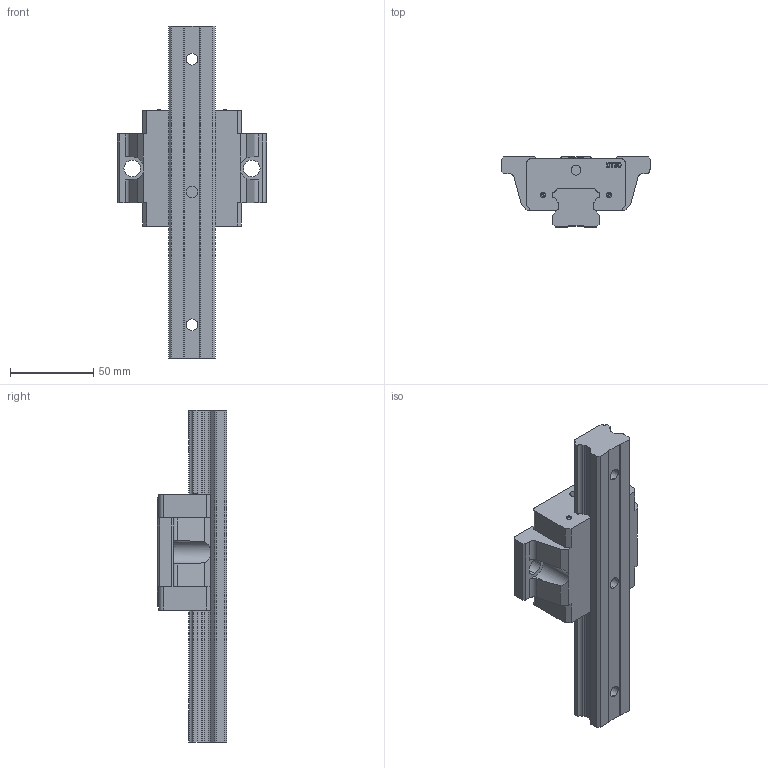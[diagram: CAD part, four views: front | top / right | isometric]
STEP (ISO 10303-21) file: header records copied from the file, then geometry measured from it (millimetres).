
FILE_DESCRIPTION (( 'STEP AP214' ), '1' );
FILE_NAME ('7.1034 Lineaarikelkka ETW30SA.STEP', '2026-03-12T11:21:17', ( '' ), ( '' ), 'SwSTEP 2.0', 'SolidWorks 2025', '' );
FILE_SCHEMA (( 'AUTOMOTIVE_DESIGN' ));
Length unit declared in the file: millimetre
Products named in the file (3): EG30_RAIL; EGW30SA_BLOCK; 7.1034 Lineaarikelkka ETW30SA
Assembly tree (2 placements, depth 2):
  7.1034 Lineaarikelkka ETW30SA
    EG30_RAIL
    EGW30SA_BLOCK
Bounding box: 90 x 42 x 200 mm (x, y, z)
Volume: 235918.4 mm3; surface area: 45379.9 mm2
Topology: 2 solids, 2 shells, 257 faces, 697 edges, 467 vertices
Faces by surface type: plane 154, cylinder 70, bspline 25, torus 8
Entity records: 13821 total; most frequent: CARTESIAN_POINT 4426, ORIENTED_EDGE 1394, DIRECTION 1259, EDGE_CURVE 697, LINE 473, VECTOR 473, VERTEX_POINT 467, AXIS2_PLACEMENT_3D 393
